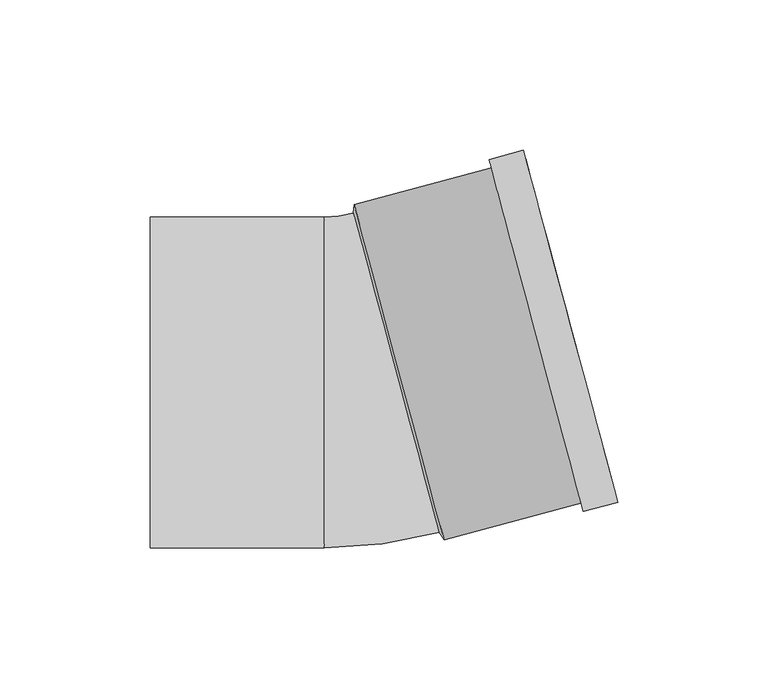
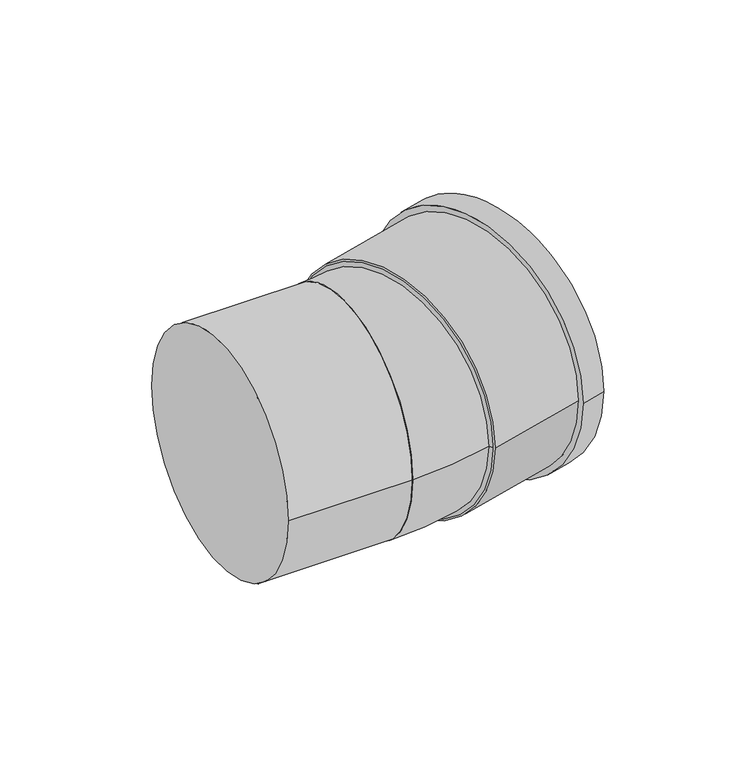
"""IFC4 building model written with IfcOpenShell, lengths in millimetres: pipe fitting geometry, Superdrain SKB Bend : Superdrain SKB Bend."""

from ifc_helpers import new_model, si_unit, point, frame, origin, origin_2d, place, context, project, spatial, polyline, circle_curve, ellipse_curve, trimmed, segment, composite_curve, outline, extrude, source, transform, mapped, element, save
from ifc_brep_helpers import plane_surface, revolved_surface, advanced_brep


def pipe_fitting_3afc0ed2(model_context):
    return source(origin(), model_context, "Body", "SolidModel", [
        advanced_brep(
        [(26.0193426, -49.9683281, 0.0), (-2.4507524, 56.2835128, 0.0), (-12.2, -55.0, 0.0), (-12.2, 55.0, 0.0)],
        [
            (0, 1, circle_curve(frame((11.7842951, 3.1575924, 0.0), z_axis=(0.965925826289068, 0.258819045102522, 0.0), x_axis=(-0.258819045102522, 0.965925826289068, 0.0)), 55.0)),
            (1, 0, circle_curve(frame((11.7842951, 3.1575924, 0.0), z_axis=(0.9659258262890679, 0.25881904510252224, 0.0), x_axis=(-0.25881904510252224, 0.9659258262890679, 0.0)), 55.0)),
            (2, 3, circle_curve(frame((-12.2, 0.0, 0.0), z_axis=(-1.0, 0.0, 0.0), x_axis=(0.0, 1.0, 0.0)), 55.0)),
            (3, 2, circle_curve(frame((-12.2, 0.0, 0.0), z_axis=(-1.0, 0.0, 0.0), x_axis=(0.0, 1.0, 0.0)), 55.0)),
            (3, 1, circle_curve(frame((-12.2, 92.6682002, 0.0), z_axis=(0.0, 0.0, 1.0), x_axis=(1.0, 0.0, 0.0)), 37.6682002)),
            (0, 2, circle_curve(frame((-12.2, 92.6682002, 0.0), z_axis=(0.0, 0.0, -1.0), x_axis=(1.0, 0.0, 0.0)), 147.6682002)),
        ],
        [
            plane_surface(frame((11.7842951, 3.1575924, 0.0), z_axis=(0.965925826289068, 0.25881904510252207, 0.0), x_axis=(0.0, 0.0, -1.0))),
            plane_surface(frame((-12.2, 0.0, 0.0), z_axis=(-1.0, 0.0, 0.0), x_axis=(0.0, 0.0, -1.0))),
            revolved_surface(trimmed(ellipse_curve(frame((80.4682002, 92.6682002, 0.0), z_axis=(0.0, -1.0, 0.0), x_axis=(-1.0, 0.0, 0.0)), 55.0, 55.0), [point((25.4682002, 92.6682002, 0.0))], [point((135.4682002, 92.6682002, 0.0))], True, "CARTESIAN"), (-12.2, 92.6682002, 0.0), (0.0, 0.0, 1.0)),
            revolved_surface(trimmed(ellipse_curve(frame((80.4682002, 92.6682002, 0.0), z_axis=(0.0, -1.0, 0.0), x_axis=(-1.0, 0.0, 0.0)), 55.0, 55.0), [point((135.4682002, 92.6682002, 0.0))], [point((25.4682002, 92.6682002, 0.0))], True, "CARTESIAN"), (-12.2, 92.6682002, 0.0), (0.0, 0.0, 1.0)),
        ],
        [
            (0, [[1, 2]]),
            (1, [[3, 4]]),
            (2, [[-4, 5, -1, 6]]),
            (3, [[-3, -6, -2, -5]]),
        ],
    ),
        extrude(outline(composite_curve([segment(trimmed(circle_curve(origin_2d(), 57.75), [point((0.0, 57.75))], [point((0.0, -57.75))], False, "CARTESIAN"), True, "CONTINUOUS"), segment(trimmed(circle_curve(origin_2d(), 57.75), [point((0.0, -57.75))], [point((0.0, 57.75))], False, "CARTESIAN"), True, "CONTINUOUS")], self_intersect=False), holes=[composite_curve([segment(trimmed(circle_curve(origin_2d(), 55.0), [point((0.0, 55.0000001))], [point((0.0, -55.0))], True, "CARTESIAN"), True, "CONTINUOUS"), segment(trimmed(circle_curve(origin_2d(), 55.0), [point((0.0, -55.0))], [point((0.0, 55.0000001))], True, "CARTESIAN"), True, "CONTINUOUS")], self_intersect=False)]), frame((12.7502209, 3.4164114, 0.0), z_axis=(0.9659258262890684, 0.2588190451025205, 0.0), x_axis=(0.0, 0.0, 1.0)), (0.0, 0.0, 1.0), 59.0),
        extrude(outline(composite_curve([segment(trimmed(circle_curve(origin_2d(), 60.6375), [point((0.0, -60.6375))], [point((0.0, 60.6375))], False, "CARTESIAN"), True, "CONTINUOUS"), segment(trimmed(circle_curve(origin_2d(), 60.6375), [point((0.0, 60.6375))], [point((0.0, -60.6375))], False, "CARTESIAN"), True, "CONTINUOUS")], self_intersect=False), holes=[composite_curve([segment(trimmed(circle_curve(origin_2d(), 55.0), [point((0.0, -55.0000001))], [point((0.0, 55.0))], True, "CARTESIAN"), True, "CONTINUOUS"), segment(trimmed(circle_curve(origin_2d(), 55.0), [point((0.0, 55.0))], [point((0.0, -55.0000001))], True, "CARTESIAN"), True, "CONTINUOUS")], self_intersect=False)]), frame((58.3419199, 15.6326703, 0.0), z_axis=(0.9659258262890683, 0.25881904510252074, 0.0), x_axis=(0.0, 0.0, 1.0)), (0.0, 0.0, 1.0), 11.8),
        advanced_brep(
        [(27.6970208, -52.3658051, 0.0), (-2.1965789, 59.1986279, 0.0), (26.0193426, -49.9683281, 0.0), (-2.4507524, 56.2835128, 0.0)],
        [
            (0, 1, circle_curve(frame((12.7502209, 3.4164114, 0.0), z_axis=(0.9659258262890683, 0.2588190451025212, 0.0), x_axis=(0.25881904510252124, -0.9659258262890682, 0.0)), 57.75)),
            (1, 0, circle_curve(frame((12.7502209, 3.4164114, 0.0), z_axis=(0.9659258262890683, 0.2588190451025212, 0.0), x_axis=(-0.25881904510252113, 0.9659258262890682, 0.0)), 57.75)),
            (2, 3, circle_curve(frame((11.7842951, 3.1575924, 0.0), z_axis=(-0.9659258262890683, -0.2588190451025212, 0.0), x_axis=(-0.25881904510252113, 0.9659258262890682, 0.0)), 55.0)),
            (3, 2, circle_curve(frame((11.7842951, 3.1575924, 0.0), z_axis=(-0.9659258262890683, -0.2588190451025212, 0.0), x_axis=(0.25881904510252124, -0.9659258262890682, 0.0)), 55.0)),
            (3, 1),
            (0, 2),
        ],
        [
            plane_surface(frame((12.7502209, 3.4164114, 0.0), z_axis=(0.9659258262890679, 0.25881904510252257, 0.0), x_axis=(0.0, 0.0, -1.0))),
            plane_surface(frame((11.7842951, 3.1575924, 0.0), z_axis=(-0.9659258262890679, -0.25881904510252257, 0.0), x_axis=(0.0, 0.0, -1.0))),
            revolved_surface(polyline([(-2.4507523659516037, 56.28351267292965, 0.0), (-2.1965789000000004, 59.1986279, 0.0)]), (-7.5342214, -2.0187886, 0.0), (0.9659258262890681, 0.25881904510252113, 0.0)),
            revolved_surface(polyline([(26.01934255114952, -49.96832805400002, 0.0), (27.697020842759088, -52.365805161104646, 0.0)]), (-7.5342214, -2.0187886, 0.0), (0.9659258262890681, 0.25881904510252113, 0.0)),
        ],
        [
            (0, [[1, 2]]),
            (1, [[3, 4]]),
            (2, [[-4, 5, -1, 6]]),
            (3, [[-3, -6, -2, -5]]),
        ],
    ),
        extrude(outline(composite_curve([segment(trimmed(circle_curve(origin_2d(), 55.0), [point((-55.0, 0.0))], [point((55.0, 0.0))], False, "CARTESIAN"), True, "CONTINUOUS"), segment(trimmed(circle_curve(origin_2d(), 55.0), [point((55.0, 0.0))], [point((-55.0, 0.0))], False, "CARTESIAN"), True, "CONTINUOUS")], self_intersect=False)), frame((-70.0, 0.0, 0.0), z_axis=(1.0, 0.0, 0.0), x_axis=(0.0, 1.0, 0.0)), (0.0, 0.0, 1.0), 57.8),
    ])


if __name__ == "__main__":
    model = new_model("IFC4")
    model_context = context("Model", 3, world=origin())
    ifc_project = project(units=[si_unit("LENGTHUNIT", "METRE", prefix="MILLI")], contexts=[model_context])
    site = spatial("IfcSite", under=ifc_project)
    building = spatial("IfcBuilding", under=site)
    placement = place(None, origin())
    pipe_fitting_shape = pipe_fitting_3afc0ed2(model_context)
    element("IfcPipeFitting", 1, ObjectType="Superdrain SKB Bend : Superdrain SKB Bend", at=placement, inside=building, context=model_context, shape_type="MappedRepresentation", body=[
        mapped(pipe_fitting_shape, transform((0.0, 0.0, 0.0), x_axis=(1.0, 0.0, 0.0), y_axis=(0.0, 1.0, 0.0), z_axis=(0.0, 0.0, 1.0))),
    ])
    save(model, "model.ifc")
